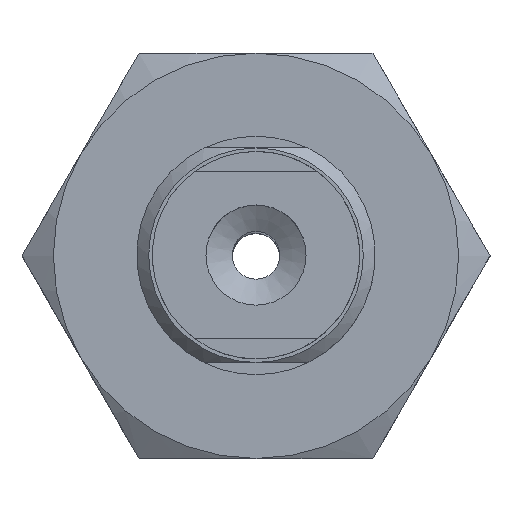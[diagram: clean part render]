
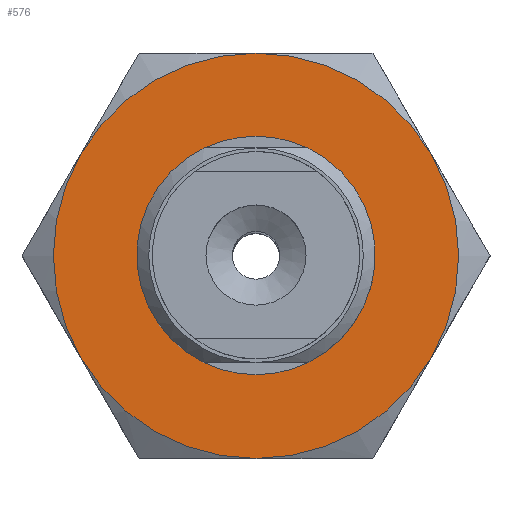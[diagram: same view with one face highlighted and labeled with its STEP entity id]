
A CAD part, top view. The second image highlights one B-rep face of the part: STEP entity #576.
In plain terms, the highlighted planar face has unit normal (0, 0, 1).
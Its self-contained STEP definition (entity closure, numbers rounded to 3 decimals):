
#576=ADVANCED_FACE('',(#838,#839),#840,.T.);
#838=FACE_BOUND('',#1218,.T.);
#839=FACE_OUTER_BOUND('',#1219,.T.);
#840=PLANE('',#1220);
#1218=EDGE_LOOP('',(#1892));
#1219=EDGE_LOOP('',(#1893,#1894,#1895,#1896,#1897,#1898));
#1220=AXIS2_PLACEMENT_3D('',#1899,#1900,#1901);
#1892=ORIENTED_EDGE('',*,*,#2692,.F.);
#1893=ORIENTED_EDGE('',*,*,#2667,.F.);
#1894=ORIENTED_EDGE('',*,*,#2682,.F.);
#1895=ORIENTED_EDGE('',*,*,#2686,.F.);
#1896=ORIENTED_EDGE('',*,*,#2690,.F.);
#1897=ORIENTED_EDGE('',*,*,#2669,.F.);
#1898=ORIENTED_EDGE('',*,*,#2662,.F.);
#1899=CARTESIAN_POINT('',(-9.815,-8.5,4.0));
#1900=DIRECTION('',(0.0,0.0,1.0));
#1901=DIRECTION('',(1.0,0.0,0.0));
#2662=EDGE_CURVE('',#3049,#3036,#3051,.T.);
#2667=EDGE_CURVE('',#3058,#3049,#3061,.T.);
#2669=EDGE_CURVE('',#3036,#3046,#3063,.T.);
#2682=EDGE_CURVE('',#3079,#3058,#3084,.T.);
#2686=EDGE_CURVE('',#3070,#3079,#3088,.T.);
#2690=EDGE_CURVE('',#3046,#3070,#3093,.T.);
#2692=EDGE_CURVE('',#3095,#3095,#3096,.T.);
#3036=VERTEX_POINT('',#3714);
#3046=VERTEX_POINT('',#3741);
#3049=VERTEX_POINT('',#3752);
#3051=CIRCLE('',#3758,8.5);
#3058=VERTEX_POINT('',#3773);
#3061=CIRCLE('',#3780,8.5);
#3063=CIRCLE('',#3786,8.5);
#3070=VERTEX_POINT('',#3802);
#3079=VERTEX_POINT('',#3828);
#3084=CIRCLE('',#3845,8.5);
#3088=CIRCLE('',#3854,8.5);
#3093=CIRCLE('',#3859,8.5);
#3095=VERTEX_POINT('',#3865);
#3096=CIRCLE('',#3866,4.5);
#3714=CARTESIAN_POINT('',(-7.361,4.25,4.0));
#3741=CARTESIAN_POINT('',(0.,8.5,4.0));
#3752=CARTESIAN_POINT('',(-7.361,-4.25,4.0));
#3758=AXIS2_PLACEMENT_3D('',#4454,#4455,#4456);
#3773=CARTESIAN_POINT('',(0.,-8.5,4.0));
#3780=AXIS2_PLACEMENT_3D('',#4460,#4461,#4462);
#3786=AXIS2_PLACEMENT_3D('',#4463,#4464,#4465);
#3802=CARTESIAN_POINT('',(7.361,4.25,4.0));
#3828=CARTESIAN_POINT('',(7.361,-4.25,4.0));
#3845=AXIS2_PLACEMENT_3D('',#4471,#4472,#4473);
#3854=AXIS2_PLACEMENT_3D('',#4478,#4479,#4480);
#3859=AXIS2_PLACEMENT_3D('',#4490,#4491,#4492);
#3865=CARTESIAN_POINT('',(0.0,-4.5,4.0));
#3866=AXIS2_PLACEMENT_3D('',#4493,#4494,#4495);
#4454=CARTESIAN_POINT('',(0.,0.,4.0));
#4455=DIRECTION('',(0.,0.,-1.0));
#4456=DIRECTION('',(0.866,0.5,0.));
#4460=CARTESIAN_POINT('',(0.,0.,4.0));
#4461=DIRECTION('',(0.,0.,-1.0));
#4462=DIRECTION('',(0.866,0.5,0.));
#4463=CARTESIAN_POINT('',(0.,0.,4.0));
#4464=DIRECTION('',(0.,0.,-1.0));
#4465=DIRECTION('',(0.866,0.5,0.));
#4471=CARTESIAN_POINT('',(0.,0.,4.0));
#4472=DIRECTION('',(0.,0.,-1.0));
#4473=DIRECTION('',(0.866,0.5,0.));
#4478=CARTESIAN_POINT('',(0.,0.,4.0));
#4479=DIRECTION('',(0.,0.,-1.0));
#4480=DIRECTION('',(0.866,0.5,0.));
#4490=CARTESIAN_POINT('',(0.,0.,4.0));
#4491=DIRECTION('',(0.,0.,-1.0));
#4492=DIRECTION('',(0.866,0.5,0.));
#4493=CARTESIAN_POINT('',(0.0,0.0,4.0));
#4494=DIRECTION('',(0.0,0.,1.0));
#4495=DIRECTION('',(0.0,-1.0,0.));
